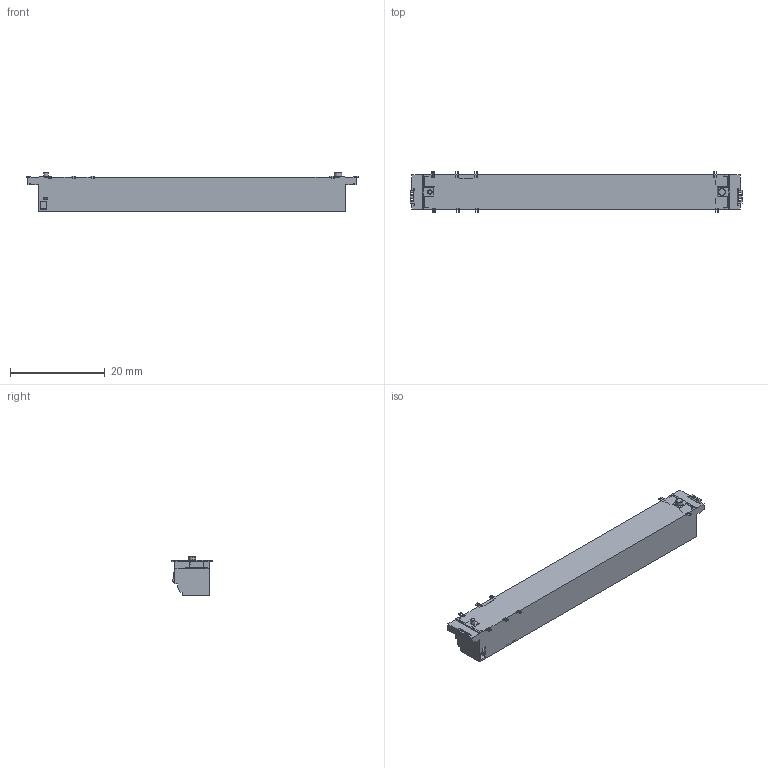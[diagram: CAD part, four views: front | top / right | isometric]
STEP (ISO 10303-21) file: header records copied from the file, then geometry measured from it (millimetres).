
FILE_DESCRIPTION(('OneSpaceDesigner STEP Export'),'2;1');
FILE_NAME('S-88882-2DXX.stp','2006-09-20T 8:03:46',(''),(''),'OneSpace Designer STEP processor for AP214 (Solid Model)','OneSpace Designer 13.01 05-Feb-2005 (C) CoCreate Software GmbH','');
FILE_SCHEMA(('AUTOMOTIVE_DESIGN { 1 0 10303 214 1 1 1 1 }'));
Length unit declared in the file: millimetre
Products named in the file (2): 88882-2DXX
Assembly tree (1 placements, depth 2):
  88882-2DXX
    88882-2DXX
Bounding box: 69.91 x 8.8 x 8.36 mm (x, y, z)
Volume: 2954.2 mm3; surface area: 2594.5 mm2
Topology: 1 solids, 118 shells, 1775 faces, 4559 edges, 3028 vertices
Faces by surface type: plane 1407, cylinder 360, cone 4, torus 4
Entity records: 49142 total; most frequent: ORIENTED_EDGE 9118, CARTESIAN_POINT 8487, DIRECTION 7384, EDGE_CURVE 4559, VECTOR 3506, LINE 3506, VERTEX_POINT 3028, AXIS2_PLACEMENT_3D 1939
